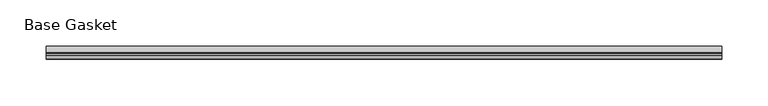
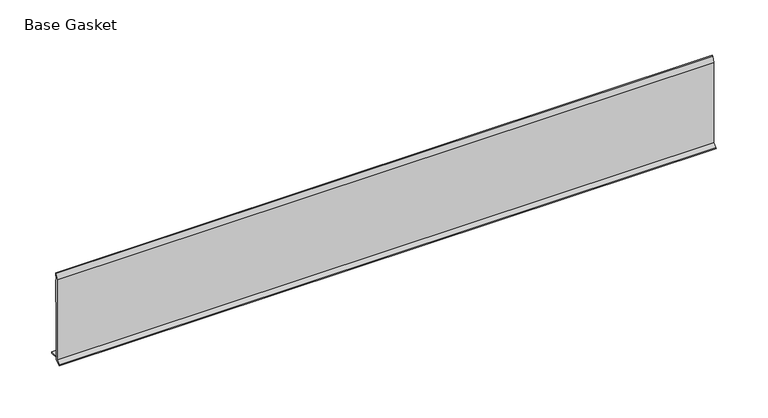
"""IFC4 building model written with IfcOpenShell, lengths in millimetres: furniture geometry, Gasket-Teknion-FHGB-AI_Healthcare-R2021 : Base Gasket."""

from ifc_helpers import new_model, si_unit, frame, origin, place, context, project, spatial, polyline, outline, extrude, source, transform, mapped, element, save


def base_gasket_f04f0329(model_context):
    return source(origin(), model_context, "Body", "SweptSolid", [
        extrude(outline(polyline([(-3.7283812, 98.4568417), (-1.1891543, 104.587663), (-0.6755308, 105.2002997), (-0.6755308, 104.4162708), (-2.2043812, 98.4568417), (-2.2043812, 96.8693477), (-1.4106313, 96.8693477), (-1.4106313, 71.4693447), (-2.2043812, 71.4693447), (-2.2043812, 7.9398773), (6.2405171, 7.9398773), (6.2405171, 6.3818476), (-2.1334222, 6.3818476), (-2.2043812, 4.3498477), (-6.8281054, 0.3520979), (-7.8482342, 0.0), (-7.4222115, 0.6560174), (-3.7283812, 4.3498477), (-3.7283812, 98.4568417)])), frame((-1527.8982117, 0.0, 0.0), z_axis=(1.0, 0.0, 0.0), x_axis=(0.0, 1.0, 0.0)), (0.0, 0.0, 1.0), 730.25),
    ])


if __name__ == "__main__":
    model = new_model("IFC4")
    model_context = context("Model", 3, world=origin())
    ifc_project = project(units=[si_unit("LENGTHUNIT", "METRE", prefix="MILLI")], contexts=[model_context])
    site = spatial("IfcSite", under=ifc_project)
    building = spatial("IfcBuilding", under=site)
    placement = place(None, origin())
    base_gasket_shape = base_gasket_f04f0329(model_context)
    element("IfcFurniture", 1, ObjectType="Gasket-Teknion-FHGB-AI_Healthcare-R2021 : Base Gasket", at=placement, inside=building, context=model_context, shape_type="MappedRepresentation", body=[
        mapped(base_gasket_shape, transform((0.0, 0.0, 0.0), x_axis=(1.0, 0.0, 0.0), y_axis=(0.0, 1.0, 0.0), z_axis=(0.0, 0.0, 1.0))),
    ])
    save(model, "model.ifc")
